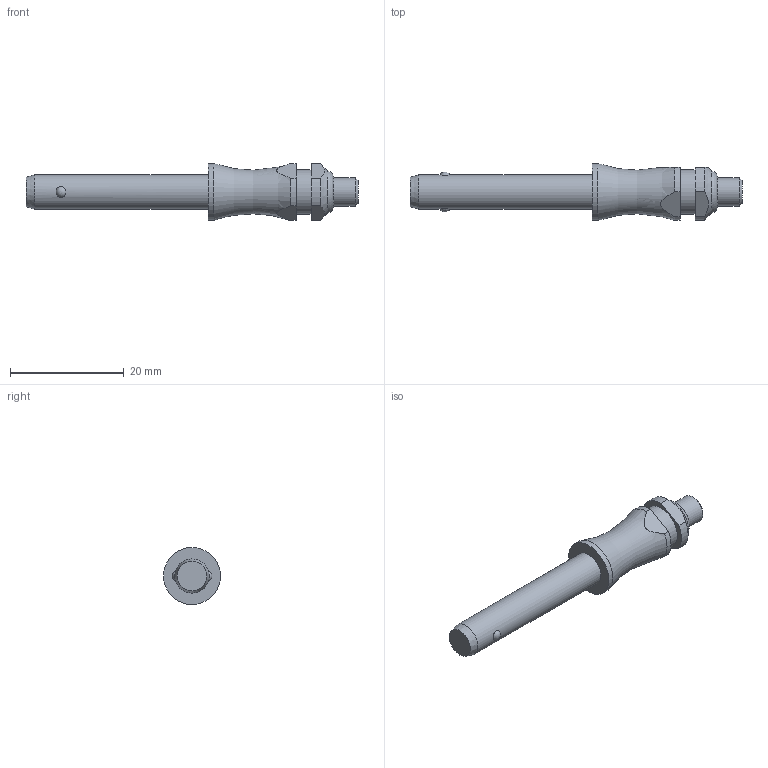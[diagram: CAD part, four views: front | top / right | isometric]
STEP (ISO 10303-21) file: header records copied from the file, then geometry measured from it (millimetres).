
FILE_DESCRIPTION( ( 'STEP AP203' ), '1' );
FILE_NAME( 'C:/Temp/Ganter_Step_05_03_2020/data/3_1/gn113_3/Stainless Steel-Ball lock pin GN 113.3-6-25 (deactivated).stp', '2020-03-12T08:18:16', ( 'License CC BY-ND 4.0' ), ( 'CADENAS' ), ' ', 'PARTsolutions', ' ' );
FILE_SCHEMA( ( 'CONFIG_CONTROL_DESIGN' ) );
Length unit declared in the file: millimetre
Products named in the file (1): _Stainless Steel-Ball lock pin GN 113.3-6-25 (deactivated)
Bounding box: 58.3 x 10 x 10 mm (x, y, z)
Volume: 2241.5 mm3; surface area: 1423.1 mm2
Topology: 1 solids, 1 shells, 29 faces, 61 edges, 40 vertices
Faces by surface type: plane 12, cylinder 10, cone 3, torus 2, sphere 2
Full cylindrical faces by diameter (mm): 5 x1, 6 x1, 7.9 x1, 10 x1
Entity records: 918 total; most frequent: CARTESIAN_POINT 288, DIRECTION 126, ORIENTED_EDGE 100, AXIS2_PLACEMENT_3D 54, EDGE_CURVE 50, EDGE_LOOP 44, VERTEX_POINT 38, FACE_OUTER_BOUND 35
